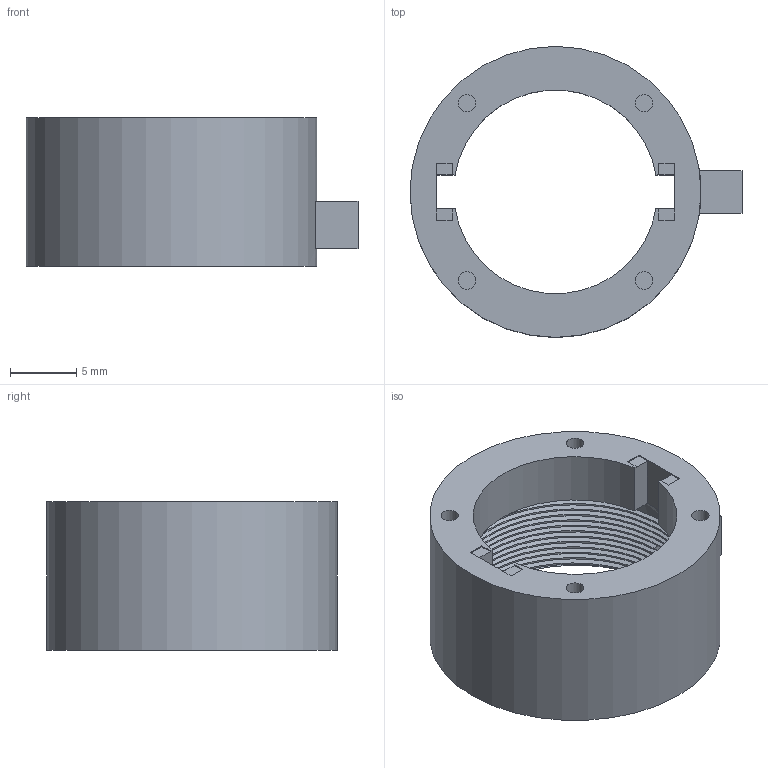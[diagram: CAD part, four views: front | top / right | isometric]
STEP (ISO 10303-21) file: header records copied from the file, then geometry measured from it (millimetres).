
FILE_DESCRIPTION(('Open CASCADE Model'),'2;1');
FILE_NAME('Open CASCADE Shape Model','2026-09-24T17:42:52',('Author'),( 'Open CASCADE'),'Open CASCADE STEP processor 7.8','Open CASCADE 7.8' ,'Unknown');
FILE_SCHEMA(('AUTOMOTIVE_DESIGN { 1 0 10303 214 1 1 1 1 }'));
Length unit declared in the file: millimetre
Products named in the file (1): Open CASCADE STEP translator 7.8 16
Bounding box: 25.1 x 22 x 11.2 mm (x, y, z)
Volume: 1579.3 mm3; surface area: 2143.9 mm2
Topology: 1 solids, 1 shells, 72 faces, 191 edges, 125 vertices
Faces by surface type: plane 39, cylinder 22, bspline 11
Full cylindrical faces by diameter (mm): 1.32 x5, 18.2 x10, 22 x1
Entity records: 14032 total; most frequent: CARTESIAN_POINT 10553, DIRECTION 509, ORIENTED_EDGE 382, PCURVE 382, DEFINITIONAL_REPRESENTATION 382, LINE 322, VECTOR 322, B_SPLINE_CURVE_WITH_KNOTS 209
